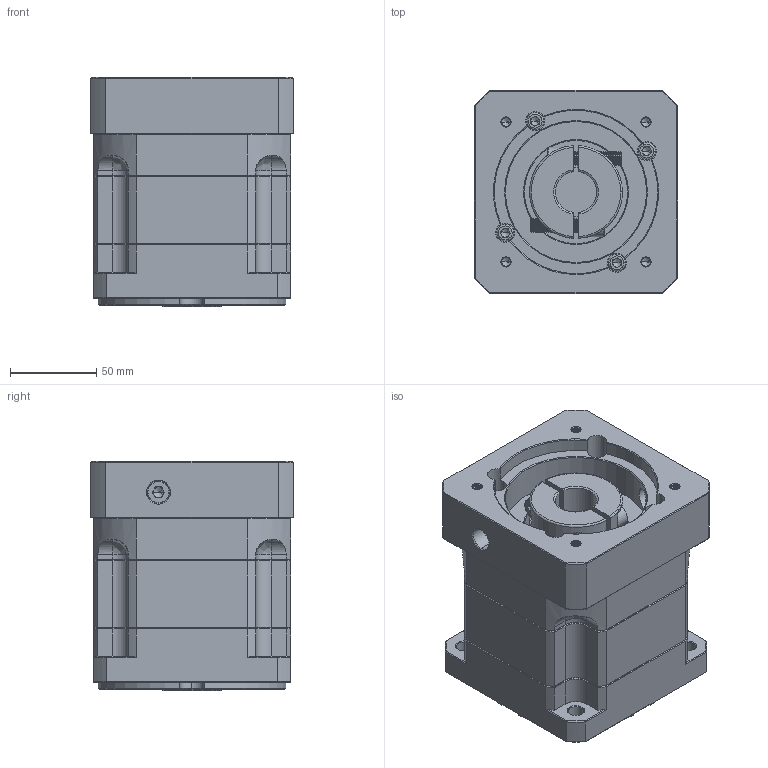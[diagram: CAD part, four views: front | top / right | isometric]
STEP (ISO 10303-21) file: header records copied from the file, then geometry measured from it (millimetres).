
FILE_DESCRIPTION (( 'STEP AP214' ), '1' );
FILE_NAME ('ZB115A-K25-L1-24-95-115-M6.step', '2023-03-02T09:04:01', ( '' ), ( 'Microsoft' ), 'SwSTEP 2.0', 'SolidWorks 2016', '' );
FILE_SCHEMA (( 'AUTOMOTIVE_DESIGN' ));
Length unit declared in the file: millimetre
Products named in the file (1): ZB115A-K25-L1-24-95-115-M6
Bounding box: 118 x 118 x 133.5 mm (x, y, z)
Volume: 1419775.6 mm3; surface area: 158894.5 mm2
Topology: 6 solids, 6 shells, 2065 faces, 5341 edges, 3367 vertices
Faces by surface type: plane 957, cylinder 407, cone 365, bspline 316, torus 20
Entity records: 107498 total; most frequent: CARTESIAN_POINT 37020, ORIENTED_EDGE 10618, DIRECTION 8791, EDGE_CURVE 5309, VERTEX_POINT 3367, VECTOR 3317, LINE 3317, AXIS2_PLACEMENT_3D 2737
